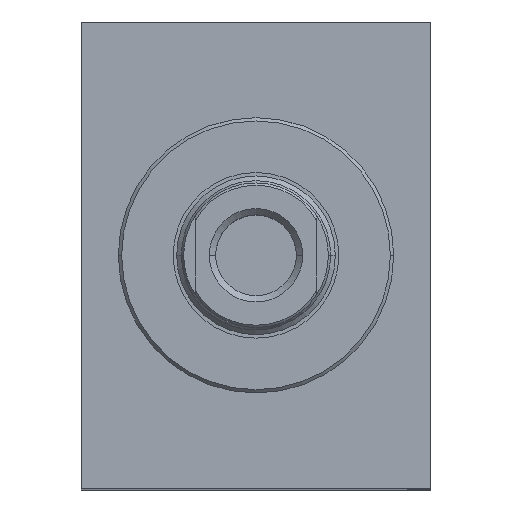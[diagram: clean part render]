
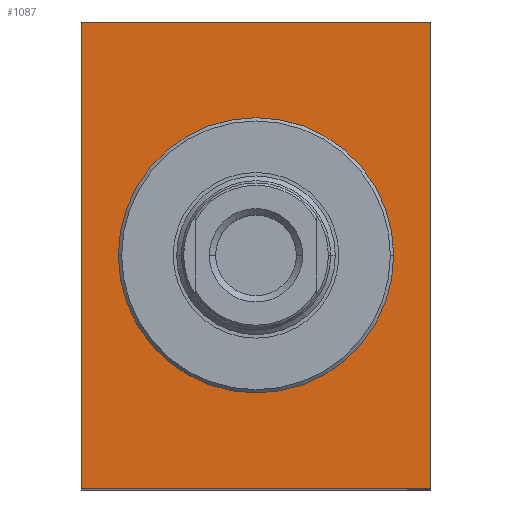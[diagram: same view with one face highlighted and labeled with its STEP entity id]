
A CAD part, top view. The second image highlights one B-rep face of the part: STEP entity #1087.
In plain terms, the highlighted planar face has unit normal (0, 0, 1).
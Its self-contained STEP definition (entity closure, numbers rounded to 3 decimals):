
#203 = EDGE_LOOP ( 'NONE', ( #3397, #1160, #3248, #3366 ) ) ;
#259 = CARTESIAN_POINT ( 'NONE',  ( 37.5, -50., -10. ) ) ;
#269 = EDGE_CURVE ( 'NONE', #5043, #4092, #1211, .T. ) ;
#314 = ORIENTED_EDGE ( 'NONE', *, *, #334, .T. ) ;
#334 = EDGE_CURVE ( 'NONE', #1520, #3309, #2870, .T. ) ;
#485 = DIRECTION ( 'NONE',  ( 1., 0., 0. ) ) ;
#514 = CARTESIAN_POINT ( 'NONE',  ( -37.5, -50., -10. ) ) ;
#713 = VECTOR ( 'NONE', #485, 1000. ) ;
#864 = DIRECTION ( 'NONE',  ( 0., 0., -1. ) ) ;
#918 = CIRCLE ( 'NONE', #4368, 29.501 ) ;
#1030 = PLANE ( 'NONE',  #3677 ) ;
#1081 = FACE_BOUND ( 'NONE', #2489, .T. ) ;
#1087 = ADVANCED_FACE ( 'NONE', ( #1081, #3878 ), #1030, .T. ) ;
#1160 = ORIENTED_EDGE ( 'NONE', *, *, #3797, .T. ) ;
#1185 = CARTESIAN_POINT ( 'NONE',  ( -37.5, -50., -10. ) ) ;
#1211 = LINE ( 'NONE', #4482, #2448 ) ;
#1477 = DIRECTION ( 'NONE',  ( 1., 0., 0. ) ) ;
#1511 = CARTESIAN_POINT ( 'NONE',  ( -37.5, 50., -10. ) ) ;
#1520 = VERTEX_POINT ( 'NONE', #4581 ) ;
#1801 = CARTESIAN_POINT ( 'NONE',  ( 37.5, 50., -10. ) ) ;
#2033 = DIRECTION ( 'NONE',  ( -1., 0., 0. ) ) ;
#2056 = CARTESIAN_POINT ( 'NONE',  ( 0., 29.501, -10. ) ) ;
#2177 = VERTEX_POINT ( 'NONE', #1185 ) ;
#2289 = ORIENTED_EDGE ( 'NONE', *, *, #2754, .T. ) ;
#2401 = DIRECTION ( 'NONE',  ( 0., -1., 0. ) ) ;
#2448 = VECTOR ( 'NONE', #2033, 1000. ) ;
#2489 = EDGE_LOOP ( 'NONE', ( #2289, #314 ) ) ;
#2552 = DIRECTION ( 'NONE',  ( 0., 1., 0. ) ) ;
#2754 = EDGE_CURVE ( 'NONE', #3309, #1520, #918, .T. ) ;
#2870 = CIRCLE ( 'NONE', #3541, 29.501 ) ;
#3248 = ORIENTED_EDGE ( 'NONE', *, *, #4572, .T. ) ;
#3309 = VERTEX_POINT ( 'NONE', #2056 ) ;
#3363 = LINE ( 'NONE', #4995, #4862 ) ;
#3366 = ORIENTED_EDGE ( 'NONE', *, *, #269, .T. ) ;
#3397 = ORIENTED_EDGE ( 'NONE', *, *, #4684, .T. ) ;
#3442 = VECTOR ( 'NONE', #2401, 1000. ) ;
#3541 = AXIS2_PLACEMENT_3D ( 'NONE', #4400, #864, #4452 ) ;
#3677 = AXIS2_PLACEMENT_3D ( 'NONE', #4587, #4226, #1477 ) ;
#3797 = EDGE_CURVE ( 'NONE', #2177, #4217, #4473, .T. ) ;
#3878 = FACE_OUTER_BOUND ( 'NONE', #203, .T. ) ;
#4092 = VERTEX_POINT ( 'NONE', #4258 ) ;
#4217 = VERTEX_POINT ( 'NONE', #259 ) ;
#4226 = DIRECTION ( 'NONE',  ( 0., 0., 1. ) ) ;
#4258 = CARTESIAN_POINT ( 'NONE',  ( -37.5, 50., -10. ) ) ;
#4324 = DIRECTION ( 'NONE',  ( 0., 1., 0. ) ) ;
#4368 = AXIS2_PLACEMENT_3D ( 'NONE', #4724, #4402, #4324 ) ;
#4399 = LINE ( 'NONE', #1511, #3442 ) ;
#4400 = CARTESIAN_POINT ( 'NONE',  ( 0., 0., -10. ) ) ;
#4402 = DIRECTION ( 'NONE',  ( 0., 0., -1. ) ) ;
#4452 = DIRECTION ( 'NONE',  ( 0., 1., 0. ) ) ;
#4473 = LINE ( 'NONE', #514, #713 ) ;
#4482 = CARTESIAN_POINT ( 'NONE',  ( 37.5, 50., -10. ) ) ;
#4572 = EDGE_CURVE ( 'NONE', #4217, #5043, #3363, .T. ) ;
#4581 = CARTESIAN_POINT ( 'NONE',  ( 0., -29.501, -10. ) ) ;
#4587 = CARTESIAN_POINT ( 'NONE',  ( 0., 0., -10. ) ) ;
#4684 = EDGE_CURVE ( 'NONE', #4092, #2177, #4399, .T. ) ;
#4724 = CARTESIAN_POINT ( 'NONE',  ( 0., 0., -10. ) ) ;
#4862 = VECTOR ( 'NONE', #2552, 1000. ) ;
#4995 = CARTESIAN_POINT ( 'NONE',  ( 37.5, -50., -10. ) ) ;
#5043 = VERTEX_POINT ( 'NONE', #1801 ) ;
